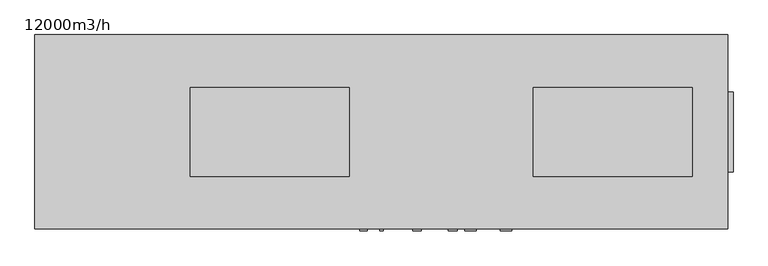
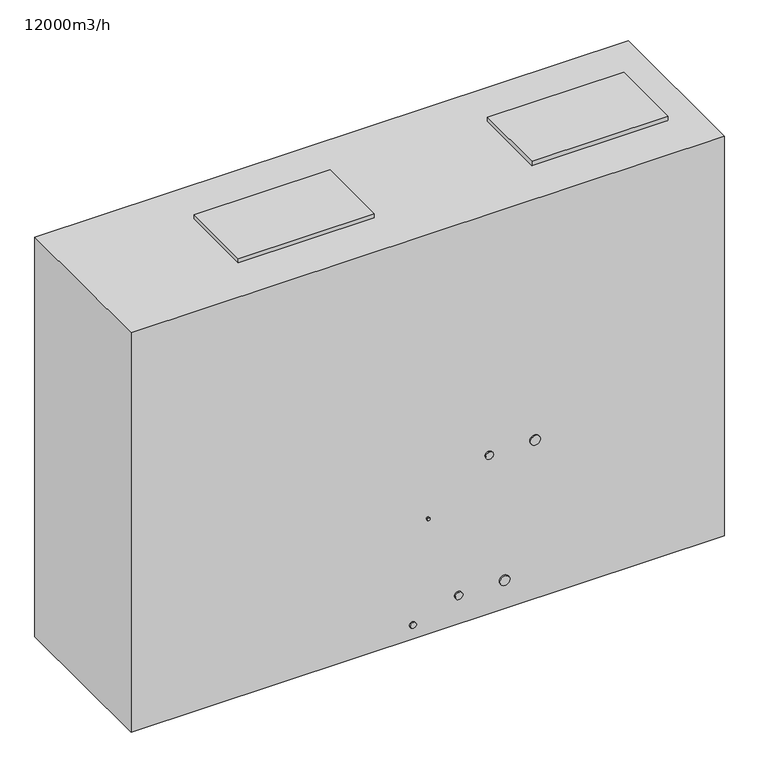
"""IFC4 building model written with IfcOpenShell, lengths in millimetres: unitary equipment geometry, 07020_ACC_コンパクト形空調機_全熱交付 : 12000m3/h."""

from ifc_helpers import new_model, si_unit, point, frame, frame_2d, origin, place, context, project, spatial, polyline, circle_curve, trimmed, segment, composite_curve, outline, extrude, source, transform, mapped, element, save


def unitary_equipment_12000m3_h_0bb0cf92(model_context):
    return source(origin(), model_context, "Body", "SweptSolid", [
        extrude(outline(polyline([(1972.0, 225.0), (1972.0, -225.0), (1942.0, -225.0), (1942.0, 225.0), (1972.0, 225.0)])), frame((0.0, 0.0, 1631.0), z_axis=(0.0, 0.0, 1.0), x_axis=(1.0, 0.0, 0.0)), (0.0, 0.0, 1.0), 600.0),
        extrude(outline(polyline([(1972.0, 150.0), (1972.0, -150.0), (1942.0, -150.0), (1942.0, 150.0), (1972.0, 150.0)])), frame((0.0, 0.0, 1031.0), z_axis=(0.0, 0.0, 1.0), x_axis=(1.0, 0.0, 0.0)), (0.0, 0.0, 1.0), 400.0),
        extrude(outline(composite_curve([segment(trimmed(circle_curve(frame_2d((1250.0, 700.0)), 32.5), [point((1250.0, 667.5))], [point((1250.0, 732.5))], False, "CARTESIAN"), True, "CONTINUOUS"), segment(trimmed(circle_curve(frame_2d((1250.0, 700.0)), 32.5), [point((1250.0, 732.5))], [point((1250.0, 667.5))], False, "CARTESIAN"), True, "CONTINUOUS")], self_intersect=False)), frame((0.0, -555.0, 0.0), z_axis=(0.0, 1.0, 0.0), x_axis=(0.0, 0.0, 1.0)), (0.0, 0.0, 1.0), 10.0),
        extrude(outline(composite_curve([segment(trimmed(circle_curve(frame_2d((350.0, 500.0)), 32.5), [point((350.0, 467.5))], [point((350.0, 532.5))], False, "CARTESIAN"), True, "CONTINUOUS"), segment(trimmed(circle_curve(frame_2d((350.0, 500.0)), 32.5), [point((350.0, 532.5))], [point((350.0, 467.5))], False, "CARTESIAN"), True, "CONTINUOUS")], self_intersect=False)), frame((0.0, -555.0, 0.0), z_axis=(0.0, 1.0, 0.0), x_axis=(0.0, 0.0, 1.0)), (0.0, 0.0, 1.0), 10.0),
        extrude(outline(composite_curve([segment(trimmed(circle_curve(frame_2d((250.0, -100.0)), 20.0), [point((250.0, -120.0))], [point((250.0, -80.0))], False, "CARTESIAN"), True, "CONTINUOUS"), segment(trimmed(circle_curve(frame_2d((250.0, -100.0)), 20.0), [point((250.0, -80.0))], [point((250.0, -120.0))], False, "CARTESIAN"), True, "CONTINUOUS")], self_intersect=False)), frame((0.0, -555.0, 0.0), z_axis=(0.0, 1.0, 0.0), x_axis=(0.0, 0.0, 1.0)), (0.0, 0.0, 1.0), 10.0),
        extrude(outline(composite_curve([segment(trimmed(circle_curve(frame_2d((950.0, 0.0)), 10.0), [point((950.0, -10.0))], [point((950.0, 10.0))], False, "CARTESIAN"), True, "CONTINUOUS"), segment(trimmed(circle_curve(frame_2d((950.0, 0.0)), 10.0), [point((950.0, 10.0))], [point((950.0, -10.0))], False, "CARTESIAN"), True, "CONTINUOUS")], self_intersect=False)), frame((0.0, -555.0, 0.0), z_axis=(0.0, 1.0, 0.0), x_axis=(0.0, 0.0, 1.0)), (0.0, 0.0, 1.0), 10.0),
        extrude(outline(composite_curve([segment(trimmed(circle_curve(frame_2d((1250.0, 400.0)), 25.0), [point((1250.0, 375.0))], [point((1250.0, 425.0))], False, "CARTESIAN"), True, "CONTINUOUS"), segment(trimmed(circle_curve(frame_2d((1250.0, 400.0)), 25.0), [point((1250.0, 425.0))], [point((1250.0, 375.0))], False, "CARTESIAN"), True, "CONTINUOUS")], self_intersect=False)), frame((0.0, -555.0, 0.0), z_axis=(0.0, 1.0, 0.0), x_axis=(0.0, 0.0, 1.0)), (0.0, 0.0, 1.0), 10.0),
        extrude(outline(composite_curve([segment(trimmed(circle_curve(frame_2d((350.0, 200.0)), 25.0), [point((350.0, 175.0))], [point((350.0, 225.0))], False, "CARTESIAN"), True, "CONTINUOUS"), segment(trimmed(circle_curve(frame_2d((350.0, 200.0)), 25.0), [point((350.0, 225.0))], [point((350.0, 175.0))], False, "CARTESIAN"), True, "CONTINUOUS")], self_intersect=False)), frame((0.0, -555.0, 0.0), z_axis=(0.0, 1.0, 0.0), x_axis=(0.0, 0.0, 1.0)), (0.0, 0.0, 1.0), 10.0),
        extrude(outline(polyline([(-180.0, -250.0), (-1070.0, -250.0), (-1070.0, 250.0), (-180.0, 250.0), (-180.0, -250.0)])), frame((0.0, 0.0, 2912.0), z_axis=(0.0, 0.0, 1.0), x_axis=(1.0, 0.0, 0.0)), (0.0, 0.0, 1.0), 30.0),
        extrude(outline(polyline([(1742.0, 250.0), (1742.0, -250.0), (852.0, -250.0), (852.0, 250.0), (1742.0, 250.0)])), frame((0.0, 0.0, 2912.0), z_axis=(0.0, 0.0, 1.0), x_axis=(1.0, 0.0, 0.0)), (0.0, 0.0, 1.0), 30.0),
        extrude(outline(polyline([(1942.0, 545.0), (1942.0, -545.0), (-1942.0, -545.0), (-1942.0, 545.0), (1942.0, 545.0)])), frame((0.0, 0.0, 150.0), z_axis=(0.0, 0.0, 1.0), x_axis=(1.0, 0.0, 0.0)), (0.0, 0.0, 1.0), 2762.0),
    ])


if __name__ == "__main__":
    model = new_model("IFC4")
    model_context = context("Model", 3, world=origin())
    ifc_project = project(units=[si_unit("LENGTHUNIT", "METRE", prefix="MILLI")], contexts=[model_context])
    site = spatial("IfcSite", under=ifc_project)
    building = spatial("IfcBuilding", under=site)
    placement = place(None, origin())
    unitary_equipment_12000m3_h_shape = unitary_equipment_12000m3_h_0bb0cf92(model_context)
    element("IfcUnitaryEquipment", 1, ObjectType="07020_ACC_コンパクト形空調機_全熱交付 : 12000m3/h", at=placement, inside=building, context=model_context, shape_type="MappedRepresentation", body=[
        mapped(unitary_equipment_12000m3_h_shape, transform((0.0, 0.0, 0.0), x_axis=(1.0, 0.0, 0.0), y_axis=(0.0, 1.0, 0.0), z_axis=(0.0, 0.0, 1.0))),
    ])
    save(model, "model.ifc")
